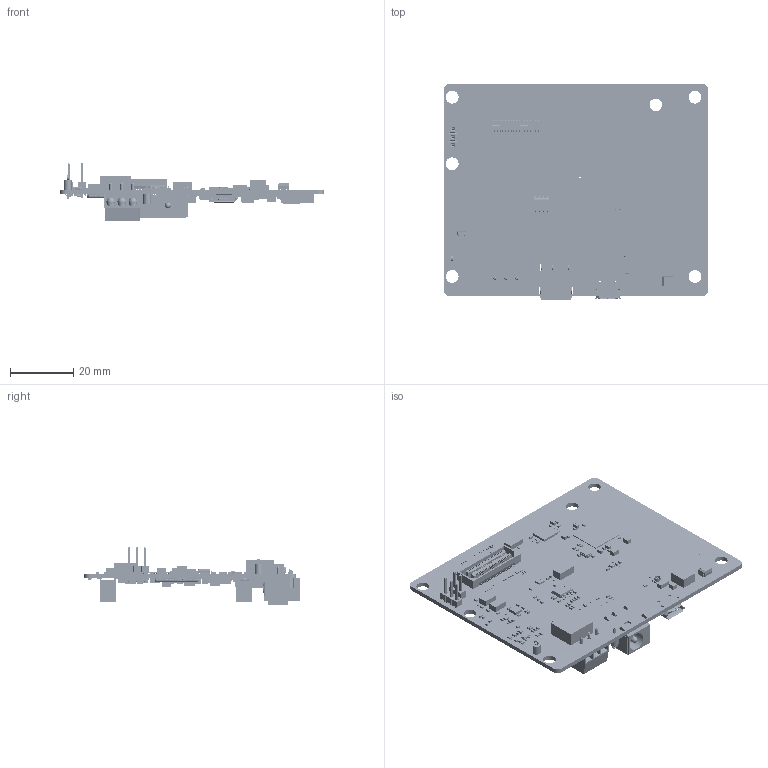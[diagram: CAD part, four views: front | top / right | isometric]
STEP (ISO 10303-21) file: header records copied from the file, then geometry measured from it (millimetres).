
FILE_DESCRIPTION(('Open CASCADE Model'),'2;1');
FILE_NAME('Open CASCADE Shape Model','2020-01-30T16:31:01',('Author'),( 'Open CASCADE'),'Open CASCADE STEP processor 6.8','Open CASCADE 6.8' ,'Unknown');
FILE_SCHEMA(('AUTOMOTIVE_DESIGN { 1 0 10303 214 1 1 1 1 }'));
Length unit declared in the file: millimetre
Products named in the file (673): PCB; Board; C105; 6016836288; Extruded; 6016836096; C102; 6016841472; 6016841280; C100; C99; R46; 6016840320; 6016840128; C80; C55; 6016836672; 6016836480; R83; 6016840704; 6016840512; C40; C37; 6016828992; 6016828800; C19; C22; 6016841088; 6016840896; R47; C31; 6016835520; 6016835328; C30; R159; R158; U2; ABL0161B; BODY; SUBSTRATE-BGA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
Assembly tree (1863 placements, depth 6):
  PCB
    Board
    C105
      6016836288  x2
        Extruded
      6016836096
        Extruded
    C102
      6016841472  x2
        Extruded
      6016841280
        Extruded
    C100
      6016841472  x2
        Extruded
      6016841280
        Extruded
    C99
      6016836288  x2
        Extruded
      6016836096
        Extruded
    R46
      6016840320  x2
        Extruded
      6016840128
        Extruded
    C80
      6016841472  x2
        Extruded
      6016841280
        Extruded
    C55
      6016836672  x2
        Extruded
      6016836480
        Extruded
    R83
      6016840704  x2
        Extruded
      6016840512
        Extruded
    C40
      6016841472  x2
        Extruded
      6016841280
        Extruded
    C37
      6016828992  x2
        Extruded
      6016828800
        Extruded
    C19
      6016836288  x2
        Extruded
      6016836096
        Extruded
    C22
      6016841088  x2
        Extruded
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Bounding box: 83.92 x 68.54 x 18.25 mm (x, y, z)
Volume: 12650.7 mm3; surface area: 25323.4 mm2
Topology: 1419 solids, 1419 shells, 14087 faces, 34420 edges, 22661 vertices
Faces by surface type: plane 12023, cylinder 1677, sphere 374, cone 6, revolution 4, torus 2, bspline 1
Full cylindrical faces by diameter (mm): 0.4 x1, 0.45 x1, 0.5 x2, 0.85 x2, 0.9 x3, 1.016 x4, 1.02 x5, 1.2 x3, 1.8 x1, 2 x4, 2.5 x2, 3 x6, 4 x1, 4.064 x5
Entity records: 219831 total; most frequent: CARTESIAN_POINT 34674, DIRECTION 33027, ORIENTED_EDGE 31902, EDGE_CURVE 15951, LINE 13793, VECTOR 13793, VERTEX_POINT 10535, AXIS2_PLACEMENT_3D 9615
